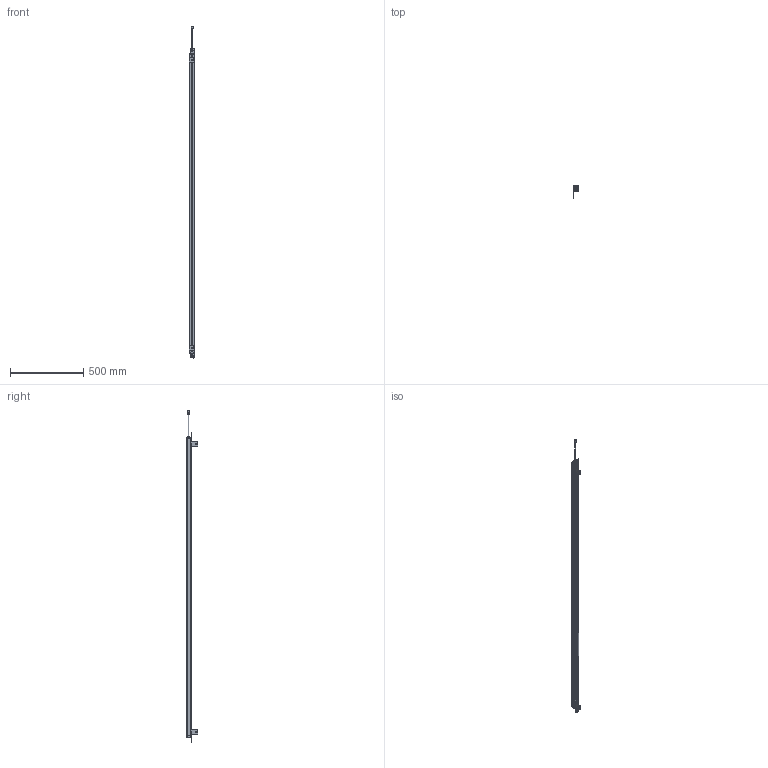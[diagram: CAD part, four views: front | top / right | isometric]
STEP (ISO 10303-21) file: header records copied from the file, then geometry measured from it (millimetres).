
FILE_DESCRIPTION(/* description */ (''),/* implementation_level */ '2;1');
FILE_NAME(/* name */ 'MTD5040.stp',/* time_stamp */ '2023-12-04T16:43:18+08:00',/* author */ (''),/* organization */ (''),/* preprocessor_version */ 'ST-DEVELOPER v16.7',/* originating_system */ 'SIEMENS PLM Software NX 12.0',/* authorisation */ '');
FILE_SCHEMA (('AP203_CONFIGURATION_CONTROLLED_3D_DESIGN_OF_MECHANICAL_PARTS_AND_ASSEMBLIES_MIM_LF { 1 0 10303 403 2 1 2}'));
Length unit declared in the file: millimetre
Products named in the file (1): MTD4240_stp
Bounding box: 37 x 80.6 x 2262.01 mm (x, y, z)
Volume: 976285.7 mm3; surface area: 729814.1 mm2
Topology: 10 solids, 10 shells, 563 faces, 1626 edges, 1096 vertices
Faces by surface type: plane 325, cylinder 202, cone 36
Full cylindrical faces by diameter (mm): 4.4 x1, 9 x1, 12.5 x1
Entity records: 18878 total; most frequent: CARTESIAN_POINT 3277, DIRECTION 3265, ORIENTED_EDGE 3230, EDGE_CURVE 1615, VERTEX_POINT 1092, LINE 1089, VECTOR 1089, AXIS2_PLACEMENT_3D 1088
